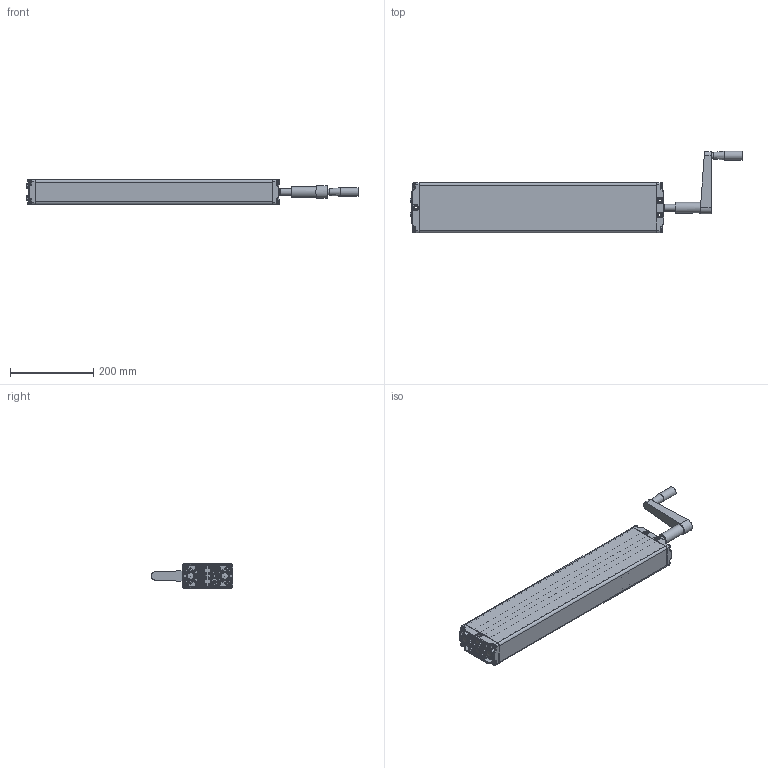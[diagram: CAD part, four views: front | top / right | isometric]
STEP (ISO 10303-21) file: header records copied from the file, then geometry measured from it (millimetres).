
FILE_DESCRIPTION(/* description */ ('Unknown'),/* implementation_level */ '2;1');
FILE_NAME(/* name */ '312.20024 Pumpe PB 3840 W mit Handkurbel',/* time_stamp */ '2016-10-21T13:38:04+02:00',/* author */ ('Unknown'),/* organization */ ('Unknown'),/* preprocessor_version */ 'ST-DEVELOPER v16.7',/* originating_system */ 'DEX',/* authorisation */ $);
FILE_SCHEMA (('AP242_MANAGED_MODEL_BASED_3D_ENGINEERING_MIM_LF { 1 0 10303 442 1 1 4 }','AUTOMOTIVE_DESIGN {1 0 10303 214 3 1 1}'));
Products named in the file (22): 102.20024; 115.00034; 125.00045; 115.00008; 142.00021; 125.00021; 113.00005; 128.00001; 125.00052; 126.00013; 125.00053; 127.00014; Handgriff; 142.00013; 125.00144; 115.00140; 126.00006; 122.00040; 119.00044; 126.00005; 142.00057; 142.00110
Assembly tree (32 placements, depth 3):
  102.20024
    115.00034  x3
      125.00045
      115.00008
      142.00021
      125.00021
    113.00005
      128.00001
      125.00052
      126.00013
      125.00053
      127.00014
      Handgriff
    142.00013  x8
    125.00045
    125.00144
    115.00140
      126.00006
      122.00040
    119.00044
    126.00005
    142.00057
    142.00110  x2
Bounding box: 797.72 x 195.5 x 60.3 mm (x, y, z)
Volume: 895861.3 mm3; surface area: 566658.3 mm2
Topology: 32 solids, 32 shells, 2571 faces, 6071 edges, 3497 vertices
Faces by surface type: plane 708, bspline 707, cylinder 578, cone 348, torus 171, sphere 59
Full cylindrical faces by diameter (mm): 3.5 x4, 4 x2, 4.1 x3, 4.2 x5, 4.917 x2, 5 x8, 6.917 x8, 8 x8, 9.8 x8, 10 x4, 10.4 x1, 12.8 x1, 13 x1, 14 x1, 14.4 x4, 15.8 x2, 16 x2, 17 x1, 17.3 x4, 17.9 x8, 18 x3, 19 x1, 20.6 x1, 21 x1, 21.2 x2, 22 x1, 25.5 x1
Entity records: 101371 total; most frequent: CARTESIAN_POINT 55714, ORIENTED_EDGE 8538, DIRECTION 6965, EDGE_CURVE 4269, AXIS2_PLACEMENT_3D 2803, VERTEX_POINT 2631, FACE_BOUND 2120, EDGE_LOOP 2117
